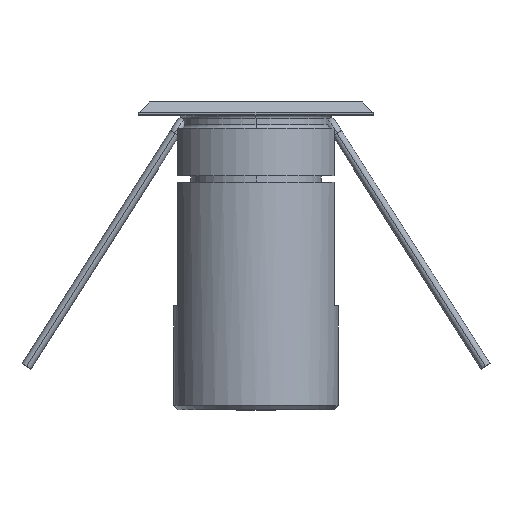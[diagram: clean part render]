
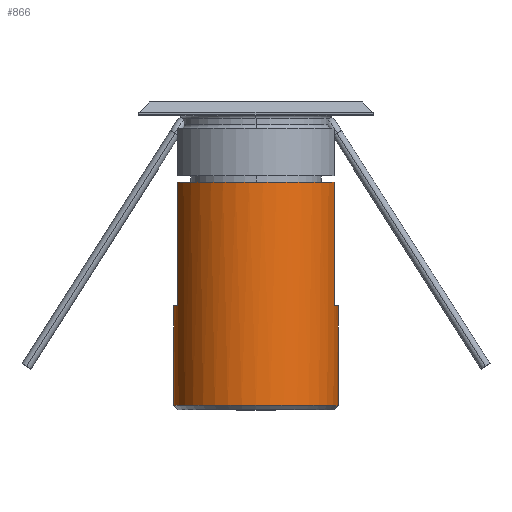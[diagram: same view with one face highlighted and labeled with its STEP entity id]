
A CAD part, top view. The second image highlights one B-rep face of the part: STEP entity #866.
In plain terms, the highlighted cylindrical face has radius 9.5 mm (diameter 19 mm), a partial arc.
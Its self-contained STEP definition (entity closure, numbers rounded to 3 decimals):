
#266=DIRECTION('',(0.,1.,0.));
#267=VECTOR('',#266,11.5);
#268=CARTESIAN_POINT('',(9.5,-29.5,0.));
#269=LINE('',#268,#267);
#293=DIRECTION('',(0.,1.,0.));
#294=VECTOR('',#293,11.5);
#295=CARTESIAN_POINT('',(-9.5,-29.5,0.));
#296=LINE('',#295,#294);
#297=CARTESIAN_POINT('',(0.,-29.5,0.));
#298=DIRECTION('',(0.,1.,0.));
#299=DIRECTION('',(-1.,0.,0.));
#300=AXIS2_PLACEMENT_3D('',#297,#298,#299);
#302=CARTESIAN_POINT('',(0.,-18.,0.));
#303=DIRECTION('',(0.,-1.,0.));
#304=DIRECTION('',(-0.947,0.,0.32));
#305=AXIS2_PLACEMENT_3D('',#302,#303,#304);
#307=DIRECTION('',(0.,-1.,0.));
#308=VECTOR('',#307,14.25);
#309=CARTESIAN_POINT('',(-9.,-3.75,3.041));
#310=LINE('',#309,#308);
#311=CARTESIAN_POINT('',(0.,-3.75,0.));
#312=DIRECTION('',(0.,1.,0.));
#313=DIRECTION('',(-0.947,0.,0.32));
#314=AXIS2_PLACEMENT_3D('',#311,#312,#313);
#316=DIRECTION('',(0.,-1.,0.));
#317=VECTOR('',#316,14.25);
#318=CARTESIAN_POINT('',(9.,-3.75,3.041));
#319=LINE('',#318,#317);
#320=CARTESIAN_POINT('',(0.,-18.,0.));
#321=DIRECTION('',(0.,-1.,0.));
#322=DIRECTION('',(1.,0.,0.));
#323=AXIS2_PLACEMENT_3D('',#320,#321,#322);
#407=CARTESIAN_POINT('',(9.5,-18.,0.));
#408=CARTESIAN_POINT('',(9.,-18.,3.041));
#409=VERTEX_POINT('',#407);
#410=VERTEX_POINT('',#408);
#411=CARTESIAN_POINT('',(-9.,-18.,3.041));
#412=CARTESIAN_POINT('',(-9.5,-18.,0.));
#413=VERTEX_POINT('',#411);
#414=VERTEX_POINT('',#412);
#431=CARTESIAN_POINT('',(9.,-3.75,3.041));
#432=VERTEX_POINT('',#431);
#433=CARTESIAN_POINT('',(-9.,-3.75,3.041));
#434=VERTEX_POINT('',#433);
#483=CARTESIAN_POINT('',(9.5,-29.5,0.));
#484=CARTESIAN_POINT('',(-9.5,-29.5,0.));
#485=VERTEX_POINT('',#483);
#486=VERTEX_POINT('',#484);
#845=CARTESIAN_POINT('',(0.,1.5,0.));
#846=DIRECTION('',(0.,-1.,0.));
#847=DIRECTION('',(-1.,0.,0.));
#848=AXIS2_PLACEMENT_3D('',#845,#846,#847);
#849=CYLINDRICAL_SURFACE('',#848,9.5);
#851=ORIENTED_EDGE('',*,*,#850,.F.);
#852=ORIENTED_EDGE('',*,*,#840,.T.);
#854=ORIENTED_EDGE('',*,*,#853,.F.);
#856=ORIENTED_EDGE('',*,*,#855,.F.);
#858=ORIENTED_EDGE('',*,*,#857,.T.);
#860=ORIENTED_EDGE('',*,*,#859,.T.);
#862=ORIENTED_EDGE('',*,*,#861,.F.);
#863=ORIENTED_EDGE('',*,*,#828,.F.);
#864=EDGE_LOOP('',(#851,#852,#854,#856,#858,#860,#862,#863));
#865=FACE_OUTER_BOUND('',#864,.F.);
#866=ADVANCED_FACE('',(#865),#849,.T.);
#301=CIRCLE('',#300,9.5);
#306=CIRCLE('',#305,9.5);
#315=CIRCLE('',#314,9.5);
#324=CIRCLE('',#323,9.5);
#828=EDGE_CURVE('',#485,#409,#269,.T.);
#840=EDGE_CURVE('',#486,#414,#296,.T.);
#850=EDGE_CURVE('',#486,#485,#301,.T.);
#853=EDGE_CURVE('',#413,#414,#306,.T.);
#855=EDGE_CURVE('',#434,#413,#310,.T.);
#857=EDGE_CURVE('',#434,#432,#315,.T.);
#859=EDGE_CURVE('',#432,#410,#319,.T.);
#861=EDGE_CURVE('',#409,#410,#324,.T.);
